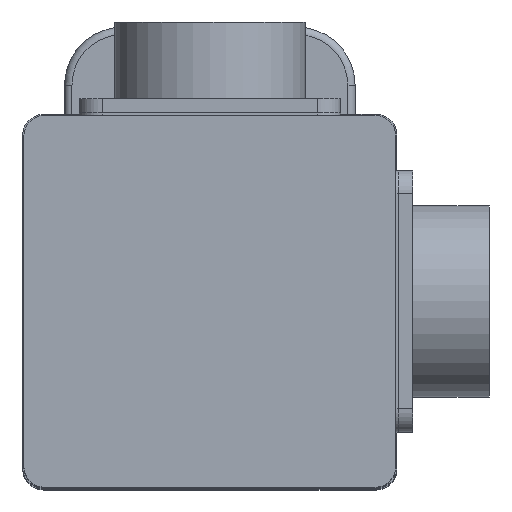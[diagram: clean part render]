
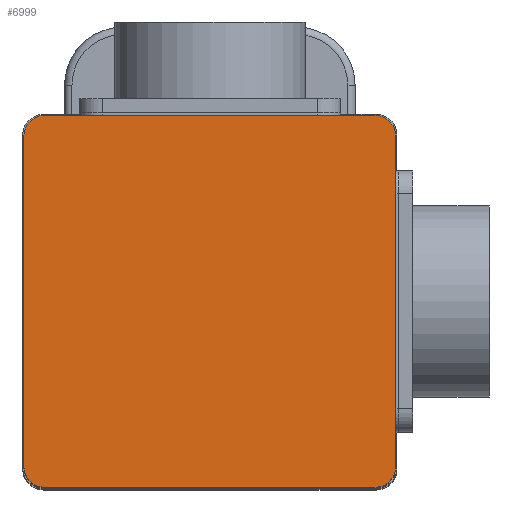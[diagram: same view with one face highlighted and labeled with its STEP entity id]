
A CAD part, top view. The second image highlights one B-rep face of the part: STEP entity #6999.
In plain terms, the highlighted planar face has unit normal (0, 0, 1).
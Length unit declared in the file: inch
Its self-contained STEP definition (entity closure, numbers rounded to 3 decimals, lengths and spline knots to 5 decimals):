
#6719=CARTESIAN_POINT('',(0.8,0.71,0.0625));
#6720=VERTEX_POINT('',#6719);
#6727=CARTESIAN_POINT('',(0.8,-0.71,0.0625));
#6728=VERTEX_POINT('',#6727);
#6729=CARTESIAN_POINT('',(0.8,0.71,0.0625));
#6730=DIRECTION('',(0.0,-1.0,0.0));
#6731=VECTOR('',#6730,1.42);
#6732=LINE('',#6729,#6731);
#6733=EDGE_CURVE('',#6720,#6728,#6732,.T.);
#6750=CARTESIAN_POINT('',(0.71,0.8,0.0625));
#6751=VERTEX_POINT('',#6750);
#6758=CARTESIAN_POINT('',(0.71,0.71,0.0625));
#6759=DIRECTION('',(0.0,0.0,-1.));
#6760=DIRECTION('',(0.707,0.707,0.0));
#6761=AXIS2_PLACEMENT_3D('',#6758,#6759,#6760);
#6762=CIRCLE('',#6761,0.09);
#6763=EDGE_CURVE('',#6751,#6720,#6762,.T.);
#6775=CARTESIAN_POINT('',(-0.71,0.8,0.0625));
#6776=VERTEX_POINT('',#6775);
#6783=CARTESIAN_POINT('',(-0.71,0.8,0.0625));
#6784=DIRECTION('',(1.0,0.0,0.0));
#6785=VECTOR('',#6784,1.42);
#6786=LINE('',#6783,#6785);
#6787=EDGE_CURVE('',#6776,#6751,#6786,.T.);
#6823=CARTESIAN_POINT('',(-0.8,0.71,0.0625));
#6824=VERTEX_POINT('',#6823);
#6831=CARTESIAN_POINT('',(-0.71,0.71,0.0625));
#6832=DIRECTION('',(0.0,0.0,-1.));
#6833=DIRECTION('',(-0.707,0.707,0.0));
#6834=AXIS2_PLACEMENT_3D('',#6831,#6832,#6833);
#6835=CIRCLE('',#6834,0.09);
#6836=EDGE_CURVE('',#6824,#6776,#6835,.T.);
#6875=CARTESIAN_POINT('',(0.71,-0.8,0.0625));
#6876=VERTEX_POINT('',#6875);
#6883=CARTESIAN_POINT('',(-0.71,-0.8,0.0625));
#6884=VERTEX_POINT('',#6883);
#6885=CARTESIAN_POINT('',(0.71,-0.8,0.0625));
#6886=DIRECTION('',(-1.0,0.0,0.0));
#6887=VECTOR('',#6886,1.42);
#6888=LINE('',#6885,#6887);
#6889=EDGE_CURVE('',#6876,#6884,#6888,.T.);
#6906=CARTESIAN_POINT('',(-0.8,-0.71,0.0625));
#6907=VERTEX_POINT('',#6906);
#6914=CARTESIAN_POINT('',(-0.8,-0.71,0.0625));
#6915=DIRECTION('',(0.0,1.0,0.0));
#6916=VECTOR('',#6915,1.42);
#6917=LINE('',#6914,#6916);
#6918=EDGE_CURVE('',#6907,#6824,#6917,.T.);
#6931=CARTESIAN_POINT('',(-0.71,-0.71,0.0625));
#6932=DIRECTION('',(0.0,0.0,-1.));
#6933=DIRECTION('',(-0.707,-0.707,0.0));
#6934=AXIS2_PLACEMENT_3D('',#6931,#6932,#6933);
#6935=CIRCLE('',#6934,0.09);
#6936=EDGE_CURVE('',#6884,#6907,#6935,.T.);
#6949=CARTESIAN_POINT('',(0.71,-0.71,0.0625));
#6950=DIRECTION('',(0.0,0.0,-1.));
#6951=DIRECTION('',(0.707,-0.707,0.0));
#6952=AXIS2_PLACEMENT_3D('',#6949,#6950,#6951);
#6953=CIRCLE('',#6952,0.09);
#6954=EDGE_CURVE('',#6728,#6876,#6953,.T.);
#6984=CARTESIAN_POINT('',(0.,0.,0.0625));
#6985=DIRECTION('',(0.0,0.0,1.0));
#6986=DIRECTION('',(1.0,0.0,0.0));
#6987=AXIS2_PLACEMENT_3D('',#6984,#6985,#6986);
#6988=PLANE('',#6987);
#6989=ORIENTED_EDGE('',*,*,#6936,.F.);
#6990=ORIENTED_EDGE('',*,*,#6889,.F.);
#6991=ORIENTED_EDGE('',*,*,#6954,.F.);
#6992=ORIENTED_EDGE('',*,*,#6733,.F.);
#6993=ORIENTED_EDGE('',*,*,#6763,.F.);
#6994=ORIENTED_EDGE('',*,*,#6787,.F.);
#6995=ORIENTED_EDGE('',*,*,#6836,.F.);
#6996=ORIENTED_EDGE('',*,*,#6918,.F.);
#6997=EDGE_LOOP('',(#6989,#6990,#6991,#6992,#6993,#6994,#6995,#6996));
#6998=FACE_OUTER_BOUND('',#6997,.T.);
#6999=ADVANCED_FACE('',(#6998),#6988,.T.);
